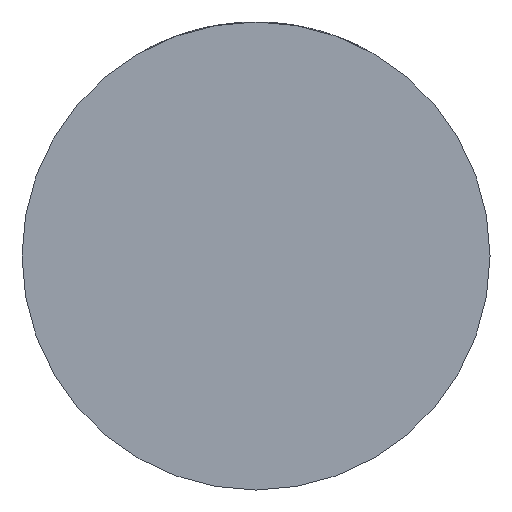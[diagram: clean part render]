
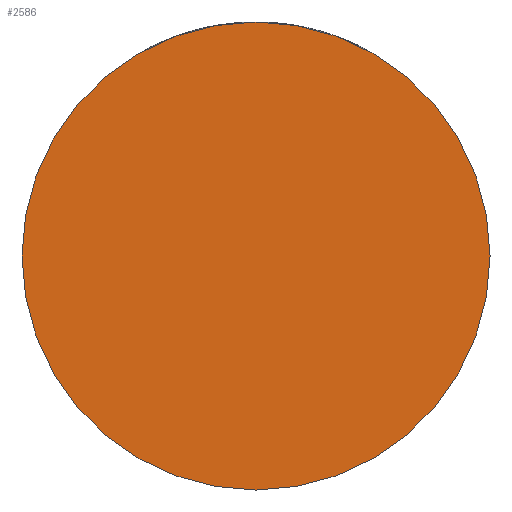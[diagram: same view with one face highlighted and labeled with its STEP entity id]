
A CAD part, front view. The second image highlights one B-rep face of the part: STEP entity #2586.
In plain terms, the highlighted planar face has unit normal (0, -1, 0).
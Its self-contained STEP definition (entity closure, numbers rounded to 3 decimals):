
#455 = DIRECTION ( 'NONE',  ( 1., 0., 0. ) ) ;
#486 = CARTESIAN_POINT ( 'NONE',  ( 49., -42., 0. ) ) ;
#810 = CARTESIAN_POINT ( 'NONE',  ( -49., -42., 0. ) ) ;
#899 = DIRECTION ( 'NONE',  ( 0., -1., 0. ) ) ;
#1350 = VERTEX_POINT ( 'NONE', #810 ) ;
#1441 = AXIS2_PLACEMENT_3D ( 'NONE', #2620, #3989, #4032 ) ;
#1506 = CIRCLE ( 'NONE', #4076, 49. ) ;
#1750 = VERTEX_POINT ( 'NONE', #486 ) ;
#1775 = EDGE_CURVE ( 'NONE', #1750, #1350, #3436, .T. ) ;
#2044 = PLANE ( 'NONE',  #3544 ) ;
#2231 = EDGE_LOOP ( 'NONE', ( #2507, #4551 ) ) ;
#2507 = ORIENTED_EDGE ( 'NONE', *, *, #3755, .T. ) ;
#2586 = ADVANCED_FACE ( 'NONE', ( #4148 ), #2044, .T. ) ;
#2620 = CARTESIAN_POINT ( 'NONE',  ( 0., -42., 0. ) ) ;
#3296 = CARTESIAN_POINT ( 'NONE',  ( 0., -42., 0. ) ) ;
#3436 = CIRCLE ( 'NONE', #1441, 49. ) ;
#3460 = CARTESIAN_POINT ( 'NONE',  ( 0., -42., 0. ) ) ;
#3544 = AXIS2_PLACEMENT_3D ( 'NONE', #3460, #899, #4406 ) ;
#3621 = DIRECTION ( 'NONE',  ( 0., -1., 0. ) ) ;
#3755 = EDGE_CURVE ( 'NONE', #1350, #1750, #1506, .T. ) ;
#3989 = DIRECTION ( 'NONE',  ( 0., -1., 0. ) ) ;
#4032 = DIRECTION ( 'NONE',  ( 1., 0., 0. ) ) ;
#4076 = AXIS2_PLACEMENT_3D ( 'NONE', #3296, #3621, #455 ) ;
#4148 = FACE_OUTER_BOUND ( 'NONE', #2231, .T. ) ;
#4406 = DIRECTION ( 'NONE',  ( 1., 0., 0. ) ) ;
#4551 = ORIENTED_EDGE ( 'NONE', *, *, #1775, .T. ) ;
